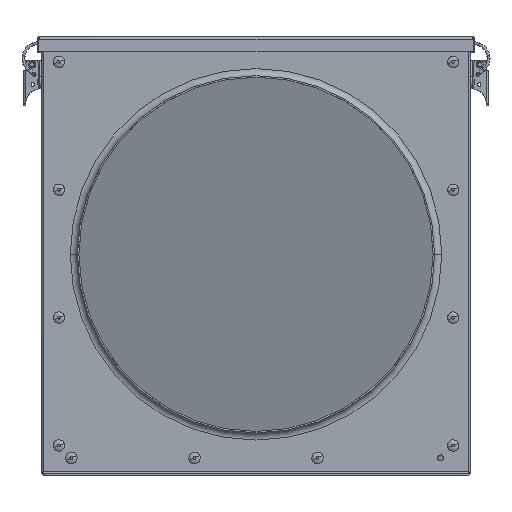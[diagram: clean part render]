
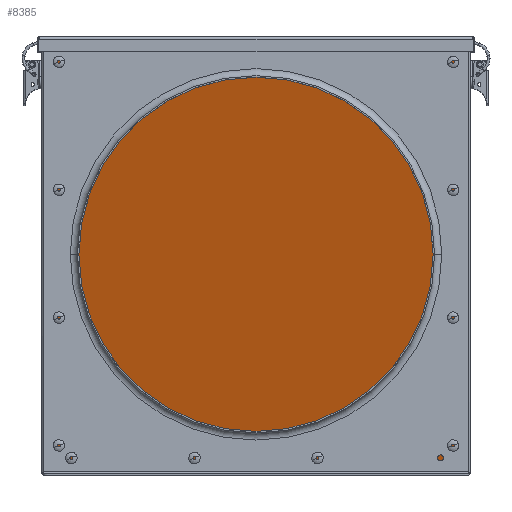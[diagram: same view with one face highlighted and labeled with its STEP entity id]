
A CAD part, top view. The second image highlights one B-rep face of the part: STEP entity #8385.
In plain terms, the highlighted planar face has unit normal (-0.419, 0, 0.908).
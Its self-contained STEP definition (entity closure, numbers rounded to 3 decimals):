
#774 = VERTEX_POINT ( 'NONE', #19852 ) ;
#1630 = DIRECTION ( 'NONE',  ( 0., -1., 0. ) ) ;
#2641 = EDGE_CURVE ( 'NONE', #774, #10945, #20034, .T. ) ;
#2843 = VERTEX_POINT ( 'NONE', #9001 ) ;
#3852 = ORIENTED_EDGE ( 'NONE', *, *, #7422, .F. ) ;
#4220 = LINE ( 'NONE', #16910, #12362 ) ;
#4838 = CARTESIAN_POINT ( 'NONE',  ( 144.944, 4.2, 70.381 ) ) ;
#4984 = VECTOR ( 'NONE', #14529, 1000. ) ;
#5057 = CARTESIAN_POINT ( 'NONE',  ( -147.456, 4.2, -64.476 ) ) ;
#5092 = ORIENTED_EDGE ( 'NONE', *, *, #12376, .F. ) ;
#6316 = DIRECTION ( 'NONE',  ( 0.908, 0., 0.419 ) ) ;
#6576 = FACE_OUTER_BOUND ( 'NONE', #19118, .T. ) ;
#7076 = EDGE_CURVE ( 'NONE', #2843, #774, #17986, .T. ) ;
#7422 = EDGE_CURVE ( 'NONE', #17516, #2843, #9061, .T. ) ;
#7940 = AXIS2_PLACEMENT_3D ( 'NONE', #4838, #11380, #1630 ) ;
#8385 = ADVANCED_FACE ( 'NONE', ( #6576 ), #9727, .T. ) ;
#9001 = CARTESIAN_POINT ( 'NONE',  ( 144.944, 301.2, 70.381 ) ) ;
#9061 = LINE ( 'NONE', #14419, #21066 ) ;
#9727 = PLANE ( 'NONE',  #7940 ) ;
#10386 = ORIENTED_EDGE ( 'NONE', *, *, #7076, .F. ) ;
#10945 = VERTEX_POINT ( 'NONE', #5057 ) ;
#11380 = DIRECTION ( 'NONE',  ( -0.419, 0., 0.908 ) ) ;
#11630 = DIRECTION ( 'NONE',  ( -0.908, 0., -0.419 ) ) ;
#12237 = CARTESIAN_POINT ( 'NONE',  ( -147.456, 301.2, -64.476 ) ) ;
#12362 = VECTOR ( 'NONE', #18560, 1000. ) ;
#12376 = EDGE_CURVE ( 'NONE', #10945, #17516, #4220, .T. ) ;
#12887 = CARTESIAN_POINT ( 'NONE',  ( 144.944, 4.2, 70.381 ) ) ;
#12930 = ORIENTED_EDGE ( 'NONE', *, *, #2641, .F. ) ;
#13205 = CARTESIAN_POINT ( 'NONE',  ( -147.456, 4.2, -64.476 ) ) ;
#14419 = CARTESIAN_POINT ( 'NONE',  ( -147.456, 301.2, -64.476 ) ) ;
#14529 = DIRECTION ( 'NONE',  ( 0., -1., 0. ) ) ;
#16910 = CARTESIAN_POINT ( 'NONE',  ( -147.456, 4.2, -64.476 ) ) ;
#17516 = VERTEX_POINT ( 'NONE', #12237 ) ;
#17966 = VECTOR ( 'NONE', #11630, 1000. ) ;
#17986 = LINE ( 'NONE', #12887, #4984 ) ;
#18560 = DIRECTION ( 'NONE',  ( 0., 1., 0. ) ) ;
#19118 = EDGE_LOOP ( 'NONE', ( #12930, #10386, #3852, #5092 ) ) ;
#19852 = CARTESIAN_POINT ( 'NONE',  ( 144.944, 4.2, 70.381 ) ) ;
#20034 = LINE ( 'NONE', #13205, #17966 ) ;
#21066 = VECTOR ( 'NONE', #6316, 1000. ) ;
